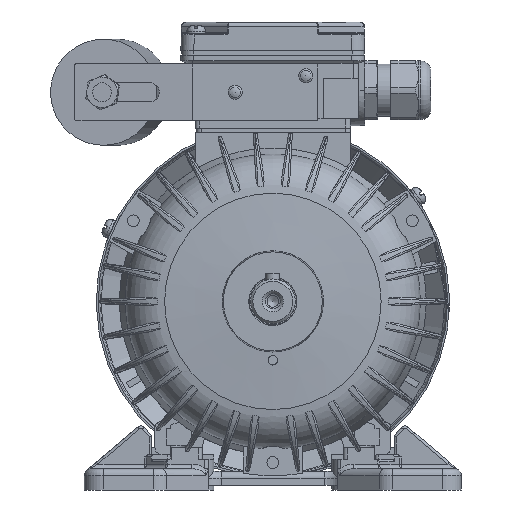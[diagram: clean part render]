
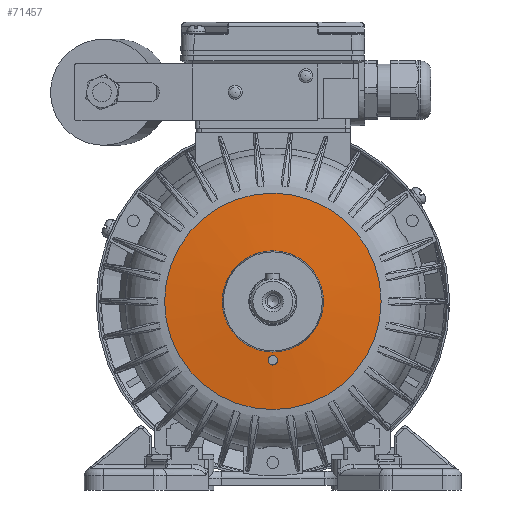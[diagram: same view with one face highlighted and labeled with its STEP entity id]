
A CAD part, left-side view. The second image highlights one B-rep face of the part: STEP entity #71457.
In plain terms, the highlighted conical face has half-angle 85.5 degrees and reference radius 21.472 mm.
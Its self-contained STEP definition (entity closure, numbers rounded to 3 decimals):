
#581=CONICAL_SURFACE('',#75787,21.472,1.492);
#1563=B_SPLINE_CURVE_WITH_KNOTS('',3,(#111590,#111591,#111592,#111593,#111594,
#111595,#111596,#111597,#111598,#111599,#111600),.UNSPECIFIED.,.T.,.F.,
(1,1,1,1,1,1,1,1,1,1,1,1,1,1,1),(-0.005,-0.003,
-0.002,0.,0.002,0.003,
0.005,0.006,0.008,0.009,
0.011,0.013,0.014,0.016,
0.017),.UNSPECIFIED.);
#20749=ORIENTED_EDGE('',*,*,#31727,.F.);
#20750=ORIENTED_EDGE('',*,*,#31551,.T.);
#20751=ORIENTED_EDGE('',*,*,#31728,.T.);
#31551=EDGE_CURVE('',#37929,#37929,#41346,.T.);
#31727=EDGE_CURVE('',#37987,#37987,#41417,.T.);
#31728=EDGE_CURVE('',#37988,#37988,#1563,.T.);
#37929=VERTEX_POINT('',#108322);
#37987=VERTEX_POINT('',#111589);
#37988=VERTEX_POINT('',#111601);
#41346=CIRCLE('',#75608,45.912);
#41417=CIRCLE('',#75788,21.472);
#44268=EDGE_LOOP('',(#20749));
#44269=EDGE_LOOP('',(#20750));
#44270=EDGE_LOOP('',(#20751));
#47731=FACE_BOUND('',#44268,.T.);
#47732=FACE_BOUND('',#44269,.T.);
#47733=FACE_BOUND('',#44270,.T.);
#71457=ADVANCED_FACE('',(#47731,#47732,#47733),#581,.T.);
#75608=AXIS2_PLACEMENT_3D('',#108321,#86339,#86340);
#75787=AXIS2_PLACEMENT_3D('',#111587,#86722,#86723);
#75788=AXIS2_PLACEMENT_3D('',#111588,#86724,#86725);
#86339=DIRECTION('',(-1.,0.,0.));
#86340=DIRECTION('',(0.,0.,-1.));
#86722=DIRECTION('',(1.,0.,0.));
#86723=DIRECTION('',(0.,0.,1.));
#86724=DIRECTION('',(-1.,0.,0.));
#86725=DIRECTION('',(0.,0.,-1.));
#108321=CARTESIAN_POINT('',(-32.577,0.,0.));
#108322=CARTESIAN_POINT('',(-32.577,0.,-45.912));
#111587=CARTESIAN_POINT('',(-34.5,0.,0.));
#111588=CARTESIAN_POINT('',(-34.5,0.,0.));
#111589=CARTESIAN_POINT('',(-34.5,0.,-21.472));
#111590=CARTESIAN_POINT('',(-34.049,-0.01,-27.218));
#111591=CARTESIAN_POINT('',(-34.096,1.564,-26.571));
#111592=CARTESIAN_POINT('',(-34.214,2.215,-25.007));
#111593=CARTESIAN_POINT('',(-34.341,1.576,-23.442));
#111594=CARTESIAN_POINT('',(-34.399,0.01,-22.782));
#111595=CARTESIAN_POINT('',(-34.343,-1.563,-23.429));
#111596=CARTESIAN_POINT('',(-34.215,-2.215,-24.989));
#111597=CARTESIAN_POINT('',(-34.097,-1.577,-26.558));
#111598=CARTESIAN_POINT('',(-34.049,-0.01,-27.218));
#111599=CARTESIAN_POINT('',(-34.096,1.564,-26.571));
#111600=CARTESIAN_POINT('',(-34.214,2.215,-25.007));
#111601=CARTESIAN_POINT('',(-34.108,1.41,-26.418));
